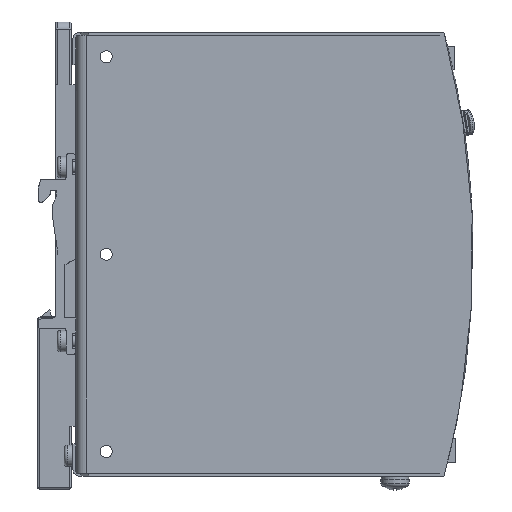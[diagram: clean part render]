
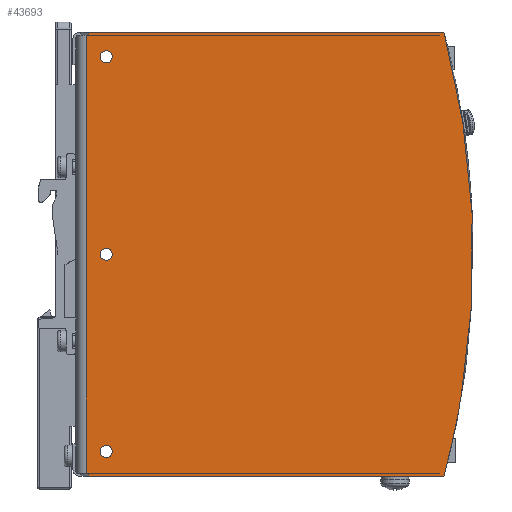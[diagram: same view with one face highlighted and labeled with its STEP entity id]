
A CAD part, front view. The second image highlights one B-rep face of the part: STEP entity #43693.
In plain terms, the highlighted planar face has unit normal (0, -1, 0).
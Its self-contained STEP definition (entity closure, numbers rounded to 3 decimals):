
#405=FACE_BOUND('',#5781,.T.);
#406=FACE_BOUND('',#5782,.T.);
#407=FACE_BOUND('',#5783,.T.);
#1471=PLANE('',#46083);
#3440=FACE_OUTER_BOUND('',#5780,.T.);
#5780=EDGE_LOOP('',(#32256,#32257,#32258,#32259,#32260,#32261,#32262,#32263,
#32264,#32265,#32266,#32267,#32268,#32269,#32270,#32271));
#5781=EDGE_LOOP('',(#32272));
#5782=EDGE_LOOP('',(#32273));
#5783=EDGE_LOOP('',(#32274));
#7951=CIRCLE('',#45426,241.025);
#8091=CIRCLE('',#45685,241.);
#8243=CIRCLE('',#46084,1.);
#8244=CIRCLE('',#46085,0.5);
#8245=CIRCLE('',#46086,0.5);
#8246=CIRCLE('',#46087,1.);
#8247=CIRCLE('',#46088,1.7);
#8248=CIRCLE('',#46089,1.7);
#8249=CIRCLE('',#46090,1.7);
#8721=LINE('',#61568,#13879);
#9266=LINE('',#67462,#14424);
#9814=LINE('',#68563,#14972);
#9815=LINE('',#68565,#14973);
#9816=LINE('',#68567,#14974);
#9817=LINE('',#68573,#14975);
#9818=LINE('',#68575,#14976);
#9819=LINE('',#68577,#14977);
#9820=LINE('',#68583,#14978);
#9821=LINE('',#68584,#14979);
#13879=VECTOR('',#48466,10.);
#14424=VECTOR('',#50079,97.631);
#14972=VECTOR('',#50635,10.);
#14973=VECTOR('',#50636,0.75);
#14974=VECTOR('',#50637,97.631);
#14975=VECTOR('',#50642,98.693);
#14976=VECTOR('',#50643,122.3);
#14977=VECTOR('',#50644,98.693);
#14978=VECTOR('',#50649,97.631);
#14979=VECTOR('',#50650,0.75);
#18954=VERTEX_POINT('',#58673);
#18955=VERTEX_POINT('',#58675);
#19274=VERTEX_POINT('',#61567);
#19453=VERTEX_POINT('',#63736);
#19776=VERTEX_POINT('',#67461);
#20325=VERTEX_POINT('',#68562);
#20326=VERTEX_POINT('',#68564);
#20327=VERTEX_POINT('',#68566);
#20328=VERTEX_POINT('',#68568);
#20329=VERTEX_POINT('',#68570);
#20330=VERTEX_POINT('',#68572);
#20331=VERTEX_POINT('',#68574);
#20332=VERTEX_POINT('',#68576);
#20333=VERTEX_POINT('',#68578);
#20334=VERTEX_POINT('',#68580);
#20335=VERTEX_POINT('',#68582);
#20336=VERTEX_POINT('',#68585);
#20337=VERTEX_POINT('',#68587);
#20338=VERTEX_POINT('',#68589);
#23057=EDGE_CURVE('',#18954,#18955,#7951,.T.);
#23378=EDGE_CURVE('',#19274,#18955,#8721,.T.);
#23701=EDGE_CURVE('',#19274,#19453,#8091,.T.);
#24295=EDGE_CURVE('',#19453,#19776,#9266,.T.);
#24846=EDGE_CURVE('',#20325,#18954,#9814,.T.);
#24847=EDGE_CURVE('',#20325,#20326,#9815,.T.);
#24848=EDGE_CURVE('',#20327,#20326,#9816,.T.);
#24849=EDGE_CURVE('',#20328,#20327,#8243,.T.);
#24850=EDGE_CURVE('',#20329,#20328,#8244,.T.);
#24851=EDGE_CURVE('',#20329,#20330,#9817,.T.);
#24852=EDGE_CURVE('',#20331,#20330,#9818,.T.);
#24853=EDGE_CURVE('',#20331,#20332,#9819,.T.);
#24854=EDGE_CURVE('',#20333,#20332,#8245,.T.);
#24855=EDGE_CURVE('',#20334,#20333,#8246,.T.);
#24856=EDGE_CURVE('',#20335,#20334,#9820,.T.);
#24857=EDGE_CURVE('',#20335,#19776,#9821,.T.);
#24858=EDGE_CURVE('',#20336,#20336,#8247,.T.);
#24859=EDGE_CURVE('',#20337,#20337,#8248,.T.);
#24860=EDGE_CURVE('',#20338,#20338,#8249,.T.);
#32256=ORIENTED_EDGE('',*,*,#24295,.F.);
#32257=ORIENTED_EDGE('',*,*,#23701,.F.);
#32258=ORIENTED_EDGE('',*,*,#23378,.T.);
#32259=ORIENTED_EDGE('',*,*,#23057,.F.);
#32260=ORIENTED_EDGE('',*,*,#24846,.F.);
#32261=ORIENTED_EDGE('',*,*,#24847,.T.);
#32262=ORIENTED_EDGE('',*,*,#24848,.F.);
#32263=ORIENTED_EDGE('',*,*,#24849,.F.);
#32264=ORIENTED_EDGE('',*,*,#24850,.F.);
#32265=ORIENTED_EDGE('',*,*,#24851,.T.);
#32266=ORIENTED_EDGE('',*,*,#24852,.F.);
#32267=ORIENTED_EDGE('',*,*,#24853,.T.);
#32268=ORIENTED_EDGE('',*,*,#24854,.F.);
#32269=ORIENTED_EDGE('',*,*,#24855,.F.);
#32270=ORIENTED_EDGE('',*,*,#24856,.F.);
#32271=ORIENTED_EDGE('',*,*,#24857,.T.);
#32272=ORIENTED_EDGE('',*,*,#24858,.T.);
#32273=ORIENTED_EDGE('',*,*,#24859,.T.);
#32274=ORIENTED_EDGE('',*,*,#24860,.T.);
#43693=ADVANCED_FACE('',(#3440,#405,#406,#407),#1471,.T.);
#45426=AXIS2_PLACEMENT_3D('',#58676,#48138,#48139);
#45685=AXIS2_PLACEMENT_3D('',#63737,#48964,#48965);
#46083=AXIS2_PLACEMENT_3D('',#68561,#50633,#50634);
#46084=AXIS2_PLACEMENT_3D('',#68569,#50638,#50639);
#46085=AXIS2_PLACEMENT_3D('',#68571,#50640,#50641);
#46086=AXIS2_PLACEMENT_3D('',#68579,#50645,#50646);
#46087=AXIS2_PLACEMENT_3D('',#68581,#50647,#50648);
#46088=AXIS2_PLACEMENT_3D('',#68586,#50651,#50652);
#46089=AXIS2_PLACEMENT_3D('',#68588,#50653,#50654);
#46090=AXIS2_PLACEMENT_3D('',#68590,#50655,#50656);
#48138=DIRECTION('center_axis',(0.,1.,0.));
#48139=DIRECTION('ref_axis',(0.967,0.,0.254));
#48466=DIRECTION('',(0.986,0.,-0.165));
#48964=DIRECTION('center_axis',(0.,1.,0.));
#48965=DIRECTION('ref_axis',(0.966,0.,0.257));
#50079=DIRECTION('',(-1.,0.,0.));
#50633=DIRECTION('center_axis',(0.,-1.,0.));
#50634=DIRECTION('ref_axis',(1.,0.,0.));
#50635=DIRECTION('',(1.,0.,0.));
#50636=DIRECTION('',(0.,0.,-1.));
#50637=DIRECTION('',(-1.,0.,0.));
#50638=DIRECTION('center_axis',(0.,-1.,0.));
#50639=DIRECTION('ref_axis',(0.968,0.,0.252));
#50640=DIRECTION('center_axis',(0.,1.,0.));
#50641=DIRECTION('ref_axis',(0.611,0.,0.792));
#50642=DIRECTION('',(-1.,0.,0.));
#50643=DIRECTION('',(0.,0.,1.));
#50644=DIRECTION('',(1.,0.,0.));
#50645=DIRECTION('center_axis',(0.,1.,0.));
#50646=DIRECTION('ref_axis',(0.611,0.,-0.792));
#50647=DIRECTION('center_axis',(0.,-1.,0.));
#50648=DIRECTION('ref_axis',(0.,0.,
-1.));
#50649=DIRECTION('',(1.,0.,0.));
#50650=DIRECTION('',(0.,0.,-1.));
#50651=DIRECTION('center_axis',(0.,1.,0.));
#50652=DIRECTION('ref_axis',(1.,0.,0.));
#50653=DIRECTION('center_axis',(0.,1.,0.));
#50654=DIRECTION('ref_axis',(1.,0.,0.));
#50655=DIRECTION('center_axis',(0.,1.,0.));
#50656=DIRECTION('ref_axis',(1.,0.,0.));
#58673=CARTESIAN_POINT('',(101.414,-21.,123.15));
#58675=CARTESIAN_POINT('',(106.213,-21.,21.329));
#58676=CARTESIAN_POINT('Origin',(-131.5,-21.,61.15));
#61567=CARTESIAN_POINT('',(106.188,-21.,21.333));
#61568=CARTESIAN_POINT('',(106.188,-21.,21.333));
#63736=CARTESIAN_POINT('',(101.388,-21.,-0.85));
#63737=CARTESIAN_POINT('Origin',(-131.5,-21.,61.15));
#67461=CARTESIAN_POINT('',(2.15,-21.,-0.85));
#67462=CARTESIAN_POINT('',(99.781,-21.,-0.85));
#68561=CARTESIAN_POINT('Origin',(-1.5,-21.,122.3));
#68562=CARTESIAN_POINT('',(2.15,-21.,123.15));
#68563=CARTESIAN_POINT('',(101.13,-21.,123.15));
#68564=CARTESIAN_POINT('',(2.15,-21.,122.4));
#68565=CARTESIAN_POINT('',(2.15,-21.,120.9));
#68566=CARTESIAN_POINT('',(99.781,-21.,122.4));
#68567=CARTESIAN_POINT('',(99.781,-21.,122.4));
#68568=CARTESIAN_POINT('',(100.218,-21.,122.299));
#68569=CARTESIAN_POINT('Origin',(99.781,-21.,121.4));
#68570=CARTESIAN_POINT('',(100.193,-21.,122.3));
#68571=CARTESIAN_POINT('Origin',(100.193,-21.,121.8));
#68572=CARTESIAN_POINT('',(1.5,-21.,122.3));
#68573=CARTESIAN_POINT('',(128.5,-21.,122.3));
#68574=CARTESIAN_POINT('',(1.5,-21.,0.));
#68575=CARTESIAN_POINT('',(1.5,-21.,122.3));
#68576=CARTESIAN_POINT('',(100.193,-21.,0.));
#68577=CARTESIAN_POINT('',(128.5,-21.,0.));
#68578=CARTESIAN_POINT('',(100.218,-21.,0.001));
#68579=CARTESIAN_POINT('Origin',(100.193,-21.,0.5));
#68580=CARTESIAN_POINT('',(99.781,-21.,-0.1));
#68581=CARTESIAN_POINT('Origin',(99.781,-21.,0.9));
#68582=CARTESIAN_POINT('',(2.15,-21.,-0.1));
#68583=CARTESIAN_POINT('',(-2.25,-21.,-0.1));
#68584=CARTESIAN_POINT('',(2.15,-21.,120.9));
#68585=CARTESIAN_POINT('',(5.3,-21.,6.));
#68586=CARTESIAN_POINT('Origin',(7.,-21.,6.));
#68587=CARTESIAN_POINT('',(5.3,-21.,61.15));
#68588=CARTESIAN_POINT('Origin',(7.,-21.,61.15));
#68589=CARTESIAN_POINT('',(5.3,-21.,116.3));
#68590=CARTESIAN_POINT('Origin',(7.,-21.,116.3));
